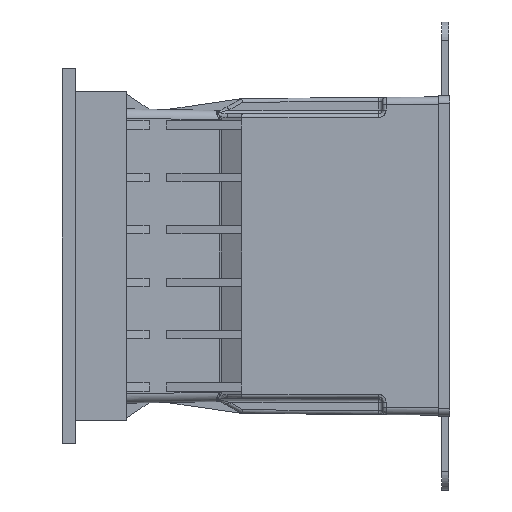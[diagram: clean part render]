
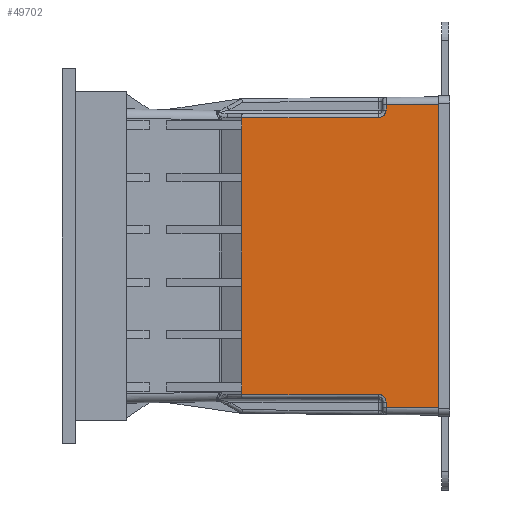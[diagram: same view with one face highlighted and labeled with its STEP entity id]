
A CAD part, left-side view. The second image highlights one B-rep face of the part: STEP entity #49702.
In plain terms, the highlighted planar face has unit normal (-1, 0.009, 0) as drawn and (0, 0.009, 1) by its records, which use the part's own axes.
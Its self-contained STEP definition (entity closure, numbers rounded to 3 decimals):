
#40264=DIRECTION('',(-1.,0.,0.));
#40265=VECTOR('',#40264,0.9);
#40266=CARTESIAN_POINT('',(37.,18.068,42.051));
#40267=LINE('',#40266,#40265);
#40778=DIRECTION('',(-1.,0.,0.));
#40779=VECTOR('',#40778,81.019);
#40780=CARTESIAN_POINT('',(40.51,-34.5,42.509));
#40781=LINE('',#40780,#40779);
#40782=DIRECTION('',(0.009,1.,-0.009));
#40783=VECTOR('',#40782,14.01);
#40784=CARTESIAN_POINT('',(-40.51,-34.5,42.509));
#40785=LINE('',#40784,#40783);
#40786=CARTESIAN_POINT('',(-39.,-20.491,
42.387));
#40787=CARTESIAN_POINT('',(-38.783,-20.489,
42.387));
#40788=CARTESIAN_POINT('',(-38.372,-20.425,
42.387));
#40789=CARTESIAN_POINT('',(-37.803,-20.135,
42.384));
#40790=CARTESIAN_POINT('',(-37.356,-19.688,
42.38));
#40791=CARTESIAN_POINT('',(-37.066,-19.119,
42.375));
#40792=CARTESIAN_POINT('',(-37.002,-18.709,
42.372));
#40793=CARTESIAN_POINT('',(-37.,-18.491,
42.37));
#40795=DIRECTION('',(1.,0.,0.));
#40796=VECTOR('',#40795,2.2);
#40797=CARTESIAN_POINT('',(-36.1,18.068,42.051));
#40798=LINE('',#40797,#40796);
#40799=DIRECTION('',(1.,0.,0.));
#40800=VECTOR('',#40799,2.2);
#40801=CARTESIAN_POINT('',(-22.1,18.068,42.051));
#40802=LINE('',#40801,#40800);
#40803=DIRECTION('',(1.,0.,0.));
#40804=VECTOR('',#40803,2.2);
#40805=CARTESIAN_POINT('',(-8.1,18.068,42.051));
#40806=LINE('',#40805,#40804);
#40807=CARTESIAN_POINT('',(37.,-18.491,
42.37));
#40808=CARTESIAN_POINT('',(37.002,-18.709,
42.372));
#40809=CARTESIAN_POINT('',(37.066,-19.119,
42.375));
#40810=CARTESIAN_POINT('',(37.357,-19.688,
42.38));
#40811=CARTESIAN_POINT('',(37.803,-20.135,
42.384));
#40812=CARTESIAN_POINT('',(38.372,-20.425,
42.387));
#40813=CARTESIAN_POINT('',(38.783,-20.489,
42.387));
#40814=CARTESIAN_POINT('',(39.,-20.491,
42.387));
#40816=DIRECTION('',(0.009,-1.,0.009));
#40817=VECTOR('',#40816,14.01);
#40818=CARTESIAN_POINT('',(40.387,-20.491,
42.387));
#40819=LINE('',#40818,#40817);
#41687=DIRECTION('',(-1.,0.,0.));
#41688=VECTOR('',#41687,2.2);
#41689=CARTESIAN_POINT('',(8.1,18.068,42.051));
#41690=LINE('',#41689,#41688);
#41733=DIRECTION('',(-1.,0.,0.));
#41734=VECTOR('',#41733,2.2);
#41735=CARTESIAN_POINT('',(22.1,18.068,42.051));
#41736=LINE('',#41735,#41734);
#41779=DIRECTION('',(-1.,0.,0.));
#41780=VECTOR('',#41779,2.2);
#41781=CARTESIAN_POINT('',(36.1,18.068,42.051));
#41782=LINE('',#41781,#41780);
#41783=DIRECTION('',(-1.,0.,0.));
#41784=VECTOR('',#41783,11.8);
#41785=CARTESIAN_POINT('',(33.9,18.068,42.051));
#41786=LINE('',#41785,#41784);
#41787=DIRECTION('',(-1.,0.,0.));
#41788=VECTOR('',#41787,11.8);
#41789=CARTESIAN_POINT('',(19.9,18.068,42.051));
#41790=LINE('',#41789,#41788);
#41791=DIRECTION('',(-1.,0.,0.));
#41792=VECTOR('',#41791,11.8);
#41793=CARTESIAN_POINT('',(5.9,18.068,42.051));
#41794=LINE('',#41793,#41792);
#41795=DIRECTION('',(-1.,0.,0.));
#41796=VECTOR('',#41795,11.8);
#41797=CARTESIAN_POINT('',(-8.1,18.068,42.051));
#41798=LINE('',#41797,#41796);
#41799=DIRECTION('',(-1.,0.,0.));
#41800=VECTOR('',#41799,11.8);
#41801=CARTESIAN_POINT('',(-22.1,18.068,42.051));
#41802=LINE('',#41801,#41800);
#41810=DIRECTION('',(-1.,0.,0.));
#41811=VECTOR('',#41810,0.9);
#41812=CARTESIAN_POINT('',(-36.1,18.068,42.051));
#41813=LINE('',#41812,#41811);
#41842=DIRECTION('',(0.,-1.,0.009));
#41843=VECTOR('',#41842,36.561);
#41844=CARTESIAN_POINT('',(-37.,18.068,42.051));
#41845=LINE('',#41844,#41843);
#41860=DIRECTION('',(-1.,0.,0.));
#41861=VECTOR('',#41860,1.387);
#41862=CARTESIAN_POINT('',(-39.,-20.491,
42.387));
#41863=LINE('',#41862,#41861);
#44085=DIRECTION('',(-1.,0.,0.));
#44086=VECTOR('',#44085,1.387);
#44087=CARTESIAN_POINT('',(40.387,-20.491,
42.387));
#44088=LINE('',#44087,#44086);
#44281=DIRECTION('',(0.,1.,-0.009));
#44282=VECTOR('',#44281,36.561);
#44283=CARTESIAN_POINT('',(37.,-18.491,
42.37));
#44284=LINE('',#44283,#44282);
#46864=CARTESIAN_POINT('',(36.1,18.068,42.051));
#46865=VERTEX_POINT('',#46864);
#46868=CARTESIAN_POINT('',(37.,18.068,42.051));
#46869=VERTEX_POINT('',#46868);
#46874=CARTESIAN_POINT('',(33.9,18.068,42.051));
#46875=VERTEX_POINT('',#46874);
#46876=CARTESIAN_POINT('',(22.1,18.068,42.051));
#46877=VERTEX_POINT('',#46876);
#46882=CARTESIAN_POINT('',(19.9,18.068,42.051));
#46883=VERTEX_POINT('',#46882);
#46884=CARTESIAN_POINT('',(8.1,18.068,42.051));
#46885=VERTEX_POINT('',#46884);
#46890=CARTESIAN_POINT('',(5.9,18.068,42.051));
#46891=VERTEX_POINT('',#46890);
#46892=CARTESIAN_POINT('',(-5.9,18.068,42.051));
#46893=VERTEX_POINT('',#46892);
#46898=CARTESIAN_POINT('',(-8.1,18.068,42.051));
#46899=VERTEX_POINT('',#46898);
#46900=CARTESIAN_POINT('',(-19.9,18.068,42.051));
#46901=VERTEX_POINT('',#46900);
#46906=CARTESIAN_POINT('',(-22.1,18.068,42.051));
#46907=VERTEX_POINT('',#46906);
#46908=CARTESIAN_POINT('',(-33.9,18.068,42.051));
#46909=VERTEX_POINT('',#46908);
#46914=CARTESIAN_POINT('',(-36.1,18.068,42.051));
#46915=VERTEX_POINT('',#46914);
#46916=CARTESIAN_POINT('',(-37.,18.068,42.051));
#46917=VERTEX_POINT('',#46916);
#47125=CARTESIAN_POINT('',(40.51,-34.5,42.509));
#47126=CARTESIAN_POINT('',(-40.51,-34.5,42.509));
#47127=VERTEX_POINT('',#47125);
#47128=VERTEX_POINT('',#47126);
#47176=CARTESIAN_POINT('',(-40.387,-20.491,
42.387));
#47177=VERTEX_POINT('',#47176);
#47178=CARTESIAN_POINT('',(-39.,-20.491,
42.387));
#47179=VERTEX_POINT('',#47178);
#47180=VERTEX_POINT('',#40793);
#47181=CARTESIAN_POINT('',(37.,-18.491,
42.37));
#47182=VERTEX_POINT('',#47181);
#47183=VERTEX_POINT('',#40814);
#47184=CARTESIAN_POINT('',(40.387,-20.491,
42.387));
#47185=VERTEX_POINT('',#47184);
#49653=CARTESIAN_POINT('',(-49.117,-62.5,42.754));
#49654=DIRECTION('',(0.,-0.009,-1.));
#49655=DIRECTION('',(1.,0.,0.));
#49656=AXIS2_PLACEMENT_3D('',#49653,#49654,#49655);
#49657=PLANE('',#49656);
#49658=ORIENTED_EDGE('',*,*,#49569,.T.);
#49660=ORIENTED_EDGE('',*,*,#49659,.T.);
#49662=ORIENTED_EDGE('',*,*,#49661,.F.);
#49664=ORIENTED_EDGE('',*,*,#49663,.T.);
#49666=ORIENTED_EDGE('',*,*,#49665,.F.);
#49668=ORIENTED_EDGE('',*,*,#49667,.F.);
#49670=ORIENTED_EDGE('',*,*,#49669,.T.);
#49672=ORIENTED_EDGE('',*,*,#49671,.F.);
#49674=ORIENTED_EDGE('',*,*,#49673,.T.);
#49676=ORIENTED_EDGE('',*,*,#49675,.F.);
#49678=ORIENTED_EDGE('',*,*,#49677,.T.);
#49680=ORIENTED_EDGE('',*,*,#49679,.F.);
#49682=ORIENTED_EDGE('',*,*,#49681,.F.);
#49684=ORIENTED_EDGE('',*,*,#49683,.F.);
#49686=ORIENTED_EDGE('',*,*,#49685,.F.);
#49688=ORIENTED_EDGE('',*,*,#49687,.F.);
#49690=ORIENTED_EDGE('',*,*,#49689,.F.);
#49691=ORIENTED_EDGE('',*,*,#49105,.F.);
#49693=ORIENTED_EDGE('',*,*,#49692,.F.);
#49695=ORIENTED_EDGE('',*,*,#49694,.T.);
#49697=ORIENTED_EDGE('',*,*,#49696,.F.);
#49699=ORIENTED_EDGE('',*,*,#49698,.T.);
#49700=EDGE_LOOP('',(#49658,#49660,#49662,#49664,#49666,#49668,#49670,#49672,
#49674,#49676,#49678,#49680,#49682,#49684,#49686,#49688,#49690,#49691,#49693,
#49695,#49697,#49699));
#49701=FACE_OUTER_BOUND('',#49700,.F.);
#49702=ADVANCED_FACE('',(#49701),#49657,.F.);
#40794=B_SPLINE_CURVE_WITH_KNOTS('',3,(#40786,#40787,#40788,#40789,#40790,
#40791,#40792,#40793),.UNSPECIFIED.,.F.,.F.,(4,1,1,1,1,4),(0.,0.2,0.4,
0.6,0.8,1.),.UNSPECIFIED.);
#40815=B_SPLINE_CURVE_WITH_KNOTS('',3,(#40807,#40808,#40809,#40810,#40811,
#40812,#40813,#40814),.UNSPECIFIED.,.F.,.F.,(4,1,1,1,1,4),(0.,0.2,0.4,
0.6,0.8,1.),.UNSPECIFIED.);
#49105=EDGE_CURVE('',#46869,#46865,#40267,.T.);
#49569=EDGE_CURVE('',#47127,#47128,#40781,.T.);
#49659=EDGE_CURVE('',#47128,#47177,#40785,.T.);
#49661=EDGE_CURVE('',#47179,#47177,#41863,.T.);
#49663=EDGE_CURVE('',#47179,#47180,#40794,.T.);
#49665=EDGE_CURVE('',#46917,#47180,#41845,.T.);
#49667=EDGE_CURVE('',#46915,#46917,#41813,.T.);
#49669=EDGE_CURVE('',#46915,#46909,#40798,.T.);
#49671=EDGE_CURVE('',#46907,#46909,#41802,.T.);
#49673=EDGE_CURVE('',#46907,#46901,#40802,.T.);
#49675=EDGE_CURVE('',#46899,#46901,#41798,.T.);
#49677=EDGE_CURVE('',#46899,#46893,#40806,.T.);
#49679=EDGE_CURVE('',#46891,#46893,#41794,.T.);
#49681=EDGE_CURVE('',#46885,#46891,#41690,.T.);
#49683=EDGE_CURVE('',#46883,#46885,#41790,.T.);
#49685=EDGE_CURVE('',#46877,#46883,#41736,.T.);
#49687=EDGE_CURVE('',#46875,#46877,#41786,.T.);
#49689=EDGE_CURVE('',#46865,#46875,#41782,.T.);
#49692=EDGE_CURVE('',#47182,#46869,#44284,.T.);
#49694=EDGE_CURVE('',#47182,#47183,#40815,.T.);
#49696=EDGE_CURVE('',#47185,#47183,#44088,.T.);
#49698=EDGE_CURVE('',#47185,#47127,#40819,.T.);
